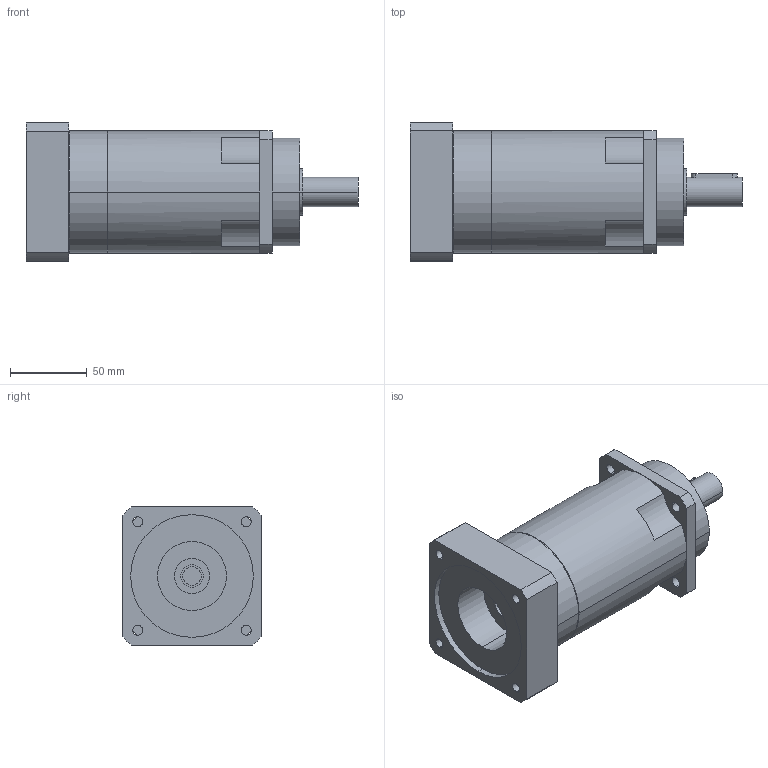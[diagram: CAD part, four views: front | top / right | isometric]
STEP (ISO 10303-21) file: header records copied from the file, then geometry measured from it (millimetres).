
FILE_DESCRIPTION(('CoCreate Modeling STEP Export'),'2;1');
FILE_NAME('GPR100_ig-48-64-80-100-120-144-180-216_19_B5_12_P28.stp','2014-08-26T11:53:43',(''),(''),'CoCreate Modeling STEP processor for AP214 (Solid Model)','CoCreate Modeling 16.00C 25-Feb-2009 (C) Parametric Technology GmbH','');
FILE_SCHEMA(('AUTOMOTIVE_DESIGN { 1 0 10303 214 1 1 1 1 }'));
Length unit declared in the file: millimetre
Products named in the file (2): GPR100_ig-48-64-80-100-120-144-180-216_19_B5_12_P28
Assembly tree (1 placements, depth 2):
  GPR100_ig-48-64-80-100-120-144-180-216_19_B5_12_P28
    GPR100_ig-48-64-80-100-120-144-180-216_19_B5_12_P28
Bounding box: 216.4 x 90 x 90 mm (x, y, z)
Volume: 909253.2 mm3; surface area: 77731.3 mm2
Topology: 1 solids, 1 shells, 89 faces, 244 edges, 166 vertices
Faces by surface type: cylinder 52, plane 31, cone 6
Entity records: 2597 total; most frequent: ORIENTED_EDGE 484, CARTESIAN_POINT 471, DIRECTION 386, EDGE_CURVE 242, VERTEX_POINT 166, AXIS2_PLACEMENT_3D 145, EDGE_LOOP 116, VECTOR 96
